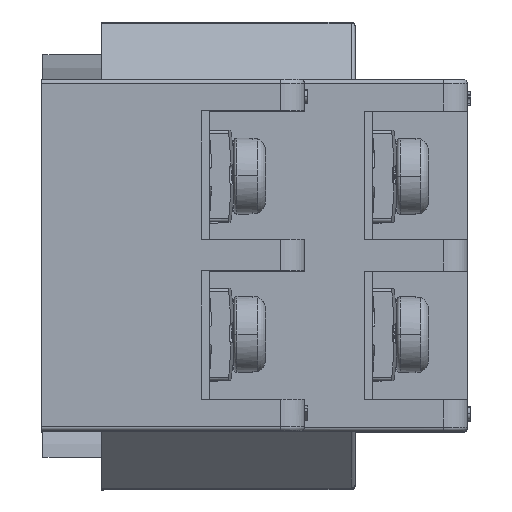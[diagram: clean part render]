
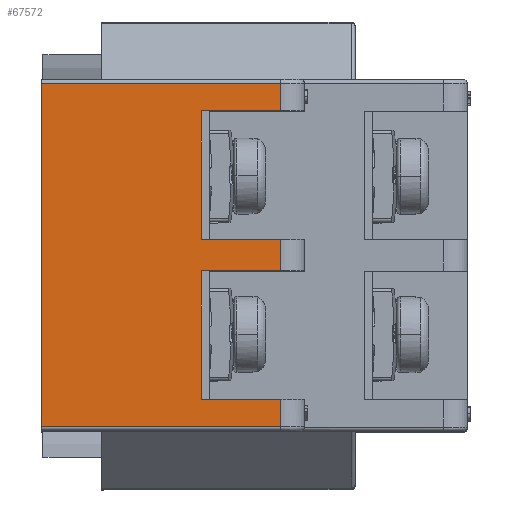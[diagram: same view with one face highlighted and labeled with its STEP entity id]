
A CAD part, top view. The second image highlights one B-rep face of the part: STEP entity #67572.
In plain terms, the highlighted planar face has unit normal (0, 0, 1).
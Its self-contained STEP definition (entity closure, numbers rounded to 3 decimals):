
#1296 = VERTEX_POINT ( 'NONE', #102704 ) ;
#2096 = ORIENTED_EDGE ( 'NONE', *, *, #109852, .F. ) ;
#4753 = VERTEX_POINT ( 'NONE', #109295 ) ;
#5317 = AXIS2_PLACEMENT_3D ( 'NONE', #54902, #88641, #105823 ) ;
#7063 = EDGE_CURVE ( 'NONE', #61890, #1296, #37188, .T. ) ;
#7216 = VERTEX_POINT ( 'NONE', #120081 ) ;
#7624 = CARTESIAN_POINT ( 'NONE',  ( 15.1, 21.95, 66.55 ) ) ;
#7702 = CARTESIAN_POINT ( 'NONE',  ( 10.1, 12.1, 66.55 ) ) ;
#8804 = EDGE_CURVE ( 'NONE', #7216, #101434, #20080, .T. ) ;
#9444 = CARTESIAN_POINT ( 'NONE',  ( 10.1, 10.1, 66.55 ) ) ;
#14959 = LINE ( 'NONE', #17536, #110630 ) ;
#16339 = PLANE ( 'NONE',  #5317 ) ;
#16870 = ORIENTED_EDGE ( 'NONE', *, *, #32004, .T. ) ;
#17536 = CARTESIAN_POINT ( 'NONE',  ( 16.6, 21.95, 66.55 ) ) ;
#17738 = VERTEX_POINT ( 'NONE', #7624 ) ;
#18179 = VERTEX_POINT ( 'NONE', #20060 ) ;
#18638 = CARTESIAN_POINT ( 'NONE',  ( 10.1, 20.2, 66.55 ) ) ;
#20060 = CARTESIAN_POINT ( 'NONE',  ( 15.1, 12.1, 66.55 ) ) ;
#20080 = LINE ( 'NONE', #59893, #23322 ) ;
#21298 = DIRECTION ( 'NONE',  ( 0., 1., 0. ) ) ;
#23322 = VECTOR ( 'NONE', #50071, 1000. ) ;
#23694 = EDGE_CURVE ( 'NONE', #84438, #18179, #26339, .T. ) ;
#23957 = LINE ( 'NONE', #63766, #112623 ) ;
#25670 = CARTESIAN_POINT ( 'NONE',  ( 15.1, 20.2, 66.55 ) ) ;
#25791 = EDGE_CURVE ( 'NONE', #17738, #30549, #14959, .T. ) ;
#26339 = LINE ( 'NONE', #97520, #54681 ) ;
#27402 = CARTESIAN_POINT ( 'NONE',  ( 15.1, 22.2, 66.55 ) ) ;
#30549 = VERTEX_POINT ( 'NONE', #126866 ) ;
#32004 = EDGE_CURVE ( 'NONE', #97132, #58184, #37909, .T. ) ;
#33240 = ORIENTED_EDGE ( 'NONE', *, *, #111459, .T. ) ;
#34402 = ORIENTED_EDGE ( 'NONE', *, *, #63402, .T. ) ;
#35818 = DIRECTION ( 'NONE',  ( -1., 0., 0. ) ) ;
#37188 = LINE ( 'NONE', #27402, #45537 ) ;
#37909 = LINE ( 'NONE', #46423, #71629 ) ;
#39325 = DIRECTION ( 'NONE',  ( 1., 0., 0. ) ) ;
#41786 = ORIENTED_EDGE ( 'NONE', *, *, #124148, .T. ) ;
#42142 = CARTESIAN_POINT ( 'NONE',  ( 15.1, 22.2, 66.55 ) ) ;
#42848 = LINE ( 'NONE', #113401, #101094 ) ;
#43760 = EDGE_LOOP ( 'NONE', ( #34402, #63525, #69235, #41786, #79099, #2096, #16870, #122560, #82746, #48087, #33240, #67276 ) ) ;
#45537 = VECTOR ( 'NONE', #48287, 1000. ) ;
#46423 = CARTESIAN_POINT ( 'NONE',  ( 10.1, 10.1, 66.55 ) ) ;
#48087 = ORIENTED_EDGE ( 'NONE', *, *, #23694, .F. ) ;
#48287 = DIRECTION ( 'NONE',  ( 0., 1., 0. ) ) ;
#50071 = DIRECTION ( 'NONE',  ( 1., 0., 0. ) ) ;
#51271 = VECTOR ( 'NONE', #70188, 1000. ) ;
#51720 = VERTEX_POINT ( 'NONE', #65809 ) ;
#54681 = VECTOR ( 'NONE', #94962, 1000. ) ;
#54902 = CARTESIAN_POINT ( 'NONE',  ( 16.6, 22.2, 66.55 ) ) ;
#56455 = CARTESIAN_POINT ( 'NONE',  ( 10.1, 2., 66.55 ) ) ;
#58111 = EDGE_CURVE ( 'NONE', #58184, #51720, #23957, .T. ) ;
#58184 = VERTEX_POINT ( 'NONE', #9444 ) ;
#58297 = LINE ( 'NONE', #78566, #71533 ) ;
#59893 = CARTESIAN_POINT ( 'NONE',  ( 10.6, 20.2, 66.55 ) ) ;
#61890 = VERTEX_POINT ( 'NONE', #128092 ) ;
#63402 = EDGE_CURVE ( 'NONE', #101434, #17738, #72172, .T. ) ;
#63525 = ORIENTED_EDGE ( 'NONE', *, *, #25791, .T. ) ;
#63766 = CARTESIAN_POINT ( 'NONE',  ( 10.6, 10.1, 66.55 ) ) ;
#65809 = CARTESIAN_POINT ( 'NONE',  ( 15.1, 10.1, 66.55 ) ) ;
#67276 = ORIENTED_EDGE ( 'NONE', *, *, #8804, .T. ) ;
#67572 = ADVANCED_FACE ( 'NONE', ( #105200 ), #16339, .F. ) ;
#69235 = ORIENTED_EDGE ( 'NONE', *, *, #127357, .T. ) ;
#70188 = DIRECTION ( 'NONE',  ( 0., 1., 0. ) ) ;
#71533 = VECTOR ( 'NONE', #79862, 1000. ) ;
#71629 = VECTOR ( 'NONE', #105860, 1000. ) ;
#72172 = LINE ( 'NONE', #42142, #98484 ) ;
#77892 = LINE ( 'NONE', #100067, #81816 ) ;
#78566 = CARTESIAN_POINT ( 'NONE',  ( 0., 22.2, 66.55 ) ) ;
#79099 = ORIENTED_EDGE ( 'NONE', *, *, #7063, .T. ) ;
#79862 = DIRECTION ( 'NONE',  ( 0., -1., 0. ) ) ;
#80616 = DIRECTION ( 'NONE',  ( 0., 1., 0. ) ) ;
#81816 = VECTOR ( 'NONE', #39325, 1000. ) ;
#81894 = LINE ( 'NONE', #121051, #94598 ) ;
#82746 = ORIENTED_EDGE ( 'NONE', *, *, #107647, .T. ) ;
#84438 = VERTEX_POINT ( 'NONE', #7702 ) ;
#87859 = LINE ( 'NONE', #18638, #51271 ) ;
#88641 = DIRECTION ( 'NONE',  ( 0., 0., -1. ) ) ;
#94598 = VECTOR ( 'NONE', #80616, 1000. ) ;
#94962 = DIRECTION ( 'NONE',  ( 1., 0., 0. ) ) ;
#97132 = VERTEX_POINT ( 'NONE', #56455 ) ;
#97520 = CARTESIAN_POINT ( 'NONE',  ( 10.6, 12.1, 66.55 ) ) ;
#98484 = VECTOR ( 'NONE', #21298, 1000. ) ;
#100067 = CARTESIAN_POINT ( 'NONE',  ( 15.1, 0.25, 66.55 ) ) ;
#101094 = VECTOR ( 'NONE', #111464, 1000. ) ;
#101434 = VERTEX_POINT ( 'NONE', #25670 ) ;
#102704 = CARTESIAN_POINT ( 'NONE',  ( 15.1, 2., 66.55 ) ) ;
#103629 = DIRECTION ( 'NONE',  ( 1., 0., 0. ) ) ;
#105200 = FACE_OUTER_BOUND ( 'NONE', #43760, .T. ) ;
#105823 = DIRECTION ( 'NONE',  ( 0., 1., 0. ) ) ;
#105860 = DIRECTION ( 'NONE',  ( 0., 1., 0. ) ) ;
#107647 = EDGE_CURVE ( 'NONE', #51720, #18179, #81894, .T. ) ;
#109295 = CARTESIAN_POINT ( 'NONE',  ( 0., 0.25, 66.55 ) ) ;
#109852 = EDGE_CURVE ( 'NONE', #97132, #1296, #42848, .T. ) ;
#110630 = VECTOR ( 'NONE', #35818, 1000. ) ;
#111459 = EDGE_CURVE ( 'NONE', #84438, #7216, #87859, .T. ) ;
#111464 = DIRECTION ( 'NONE',  ( 1., 0., 0. ) ) ;
#112623 = VECTOR ( 'NONE', #103629, 1000. ) ;
#113401 = CARTESIAN_POINT ( 'NONE',  ( 10.6, 2., 66.55 ) ) ;
#120081 = CARTESIAN_POINT ( 'NONE',  ( 10.1, 20.2, 66.55 ) ) ;
#121051 = CARTESIAN_POINT ( 'NONE',  ( 15.1, 22.2, 66.55 ) ) ;
#122560 = ORIENTED_EDGE ( 'NONE', *, *, #58111, .T. ) ;
#124148 = EDGE_CURVE ( 'NONE', #4753, #61890, #77892, .T. ) ;
#126866 = CARTESIAN_POINT ( 'NONE',  ( 0., 21.95, 66.55 ) ) ;
#127357 = EDGE_CURVE ( 'NONE', #30549, #4753, #58297, .T. ) ;
#128092 = CARTESIAN_POINT ( 'NONE',  ( 15.1, 0.25, 66.55 ) ) ;
